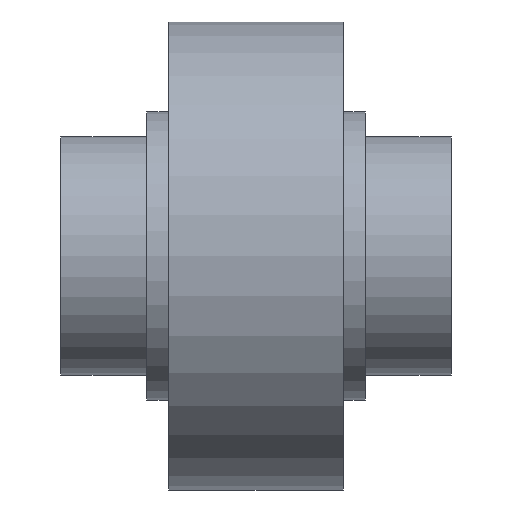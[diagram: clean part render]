
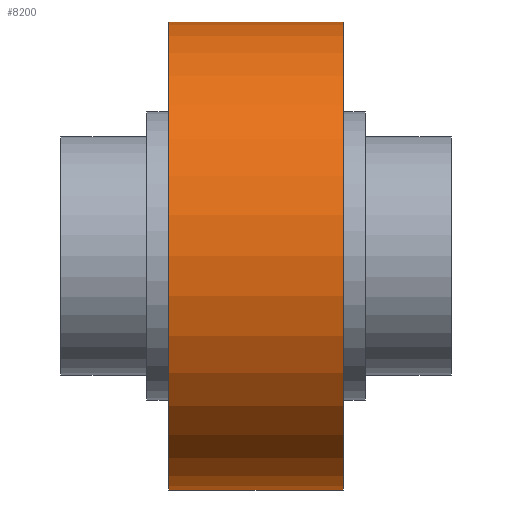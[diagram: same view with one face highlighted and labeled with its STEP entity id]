
A CAD part, top view. The second image highlights one B-rep face of the part: STEP entity #8200.
In plain terms, the highlighted cylindrical face has radius 355 mm (diameter 710 mm), a partial arc.
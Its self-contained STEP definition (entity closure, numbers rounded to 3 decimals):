
#7952=CARTESIAN_POINT('',(132.5,0.,0.));
#7953=DIRECTION('',(1.,0.,0.));
#7954=DIRECTION('',(0.,1.,0.));
#7955=AXIS2_PLACEMENT_3D('',#7952,#7953,#7954);
#7957=DIRECTION('',(-1.,0.,0.));
#7958=VECTOR('',#7957,265.);
#7959=CARTESIAN_POINT('',(132.5,355.,0.));
#7960=LINE('',#7959,#7958);
#7961=DIRECTION('',(-1.,0.,0.));
#7962=VECTOR('',#7961,265.);
#7963=CARTESIAN_POINT('',(132.5,-355.,0.));
#7964=LINE('',#7963,#7962);
#7975=CARTESIAN_POINT('',(-132.5,0.,0.));
#7976=DIRECTION('',(1.,0.,0.));
#7977=DIRECTION('',(0.,1.,0.));
#7978=AXIS2_PLACEMENT_3D('',#7975,#7976,#7977);
#8032=CARTESIAN_POINT('',(132.5,355.,0.));
#8033=CARTESIAN_POINT('',(-132.5,355.,0.));
#8034=VERTEX_POINT('',#8032);
#8035=VERTEX_POINT('',#8033);
#8040=CARTESIAN_POINT('',(132.5,-355.,0.));
#8041=CARTESIAN_POINT('',(-132.5,-355.,0.));
#8042=VERTEX_POINT('',#8040);
#8043=VERTEX_POINT('',#8041);
#8186=CARTESIAN_POINT('',(-145.75,0.,0.));
#8187=DIRECTION('',(1.,0.,0.));
#8188=DIRECTION('',(0.,-1.,0.));
#8189=AXIS2_PLACEMENT_3D('',#8186,#8187,#8188);
#8190=CYLINDRICAL_SURFACE('',#8189,355.);
#8192=ORIENTED_EDGE('',*,*,#8191,.F.);
#8193=ORIENTED_EDGE('',*,*,#8175,.T.);
#8195=ORIENTED_EDGE('',*,*,#8194,.T.);
#8197=ORIENTED_EDGE('',*,*,#8196,.F.);
#8198=EDGE_LOOP('',(#8192,#8193,#8195,#8197));
#8199=FACE_OUTER_BOUND('',#8198,.F.);
#8200=ADVANCED_FACE('',(#8199),#8190,.T.);
#7956=CIRCLE('',#7955,355.);
#7979=CIRCLE('',#7978,355.);
#8175=EDGE_CURVE('',#8034,#8042,#7956,.T.);
#8191=EDGE_CURVE('',#8034,#8035,#7960,.T.);
#8194=EDGE_CURVE('',#8042,#8043,#7964,.T.);
#8196=EDGE_CURVE('',#8035,#8043,#7979,.T.);
